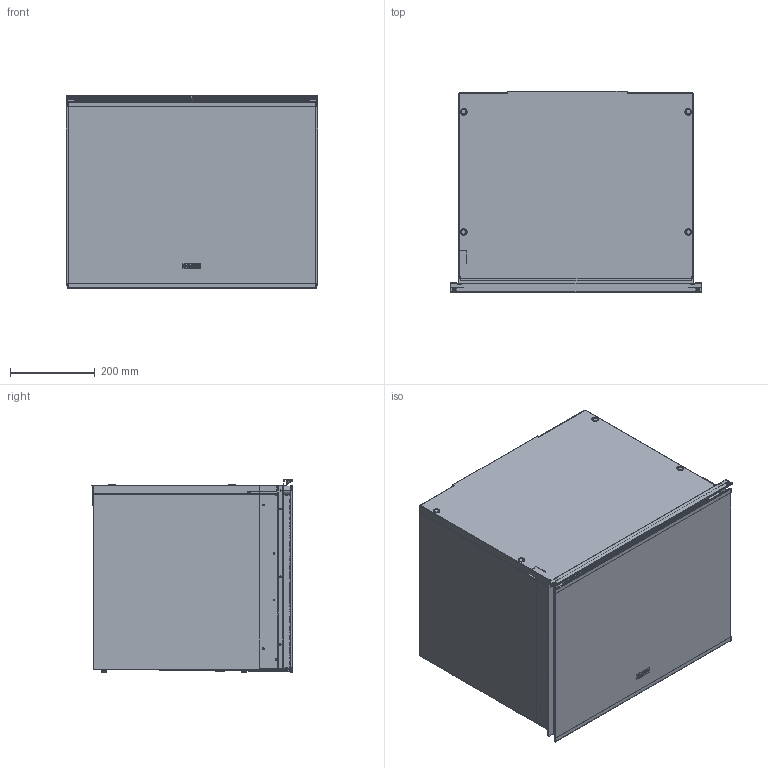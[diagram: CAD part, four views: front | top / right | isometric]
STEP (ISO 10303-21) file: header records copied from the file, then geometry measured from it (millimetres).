
FILE_DESCRIPTION(/* description */ (''),/* implementation_level */ '2;1');
FILE_NAME(/* name */ '3D001_Wine-Coolers_Mythos_FMY-24-WCR',/* time_stamp */ '2024-02-07T15:45:24+01:00',/* author */ (''),/* organization */ (''),/* preprocessor_version */ 'ST-DEVELOPER v19.2',/* originating_system */ 'Rhino 8.3',/* authorisation */ '');
FILE_SCHEMA (('CONFIG_CONTROL_DESIGN'));
Length unit declared in the file: millimetre
Products named in the file (27): Document; P_001025; P_001020; Blocco 01; CERNIERA PORTA CANTINA 5M; P_003065; 019-15 STAFFA FISSAGGIO PUSH; BAULETTO SCHIUMATO CANTINA 5M; Fondo bauletto 45 5M; schiena cantina 45 5M; BAULETTO 45 SUP 5M; P_003079; SOTTOVITE 2885_AA01 3638220; Assieme FLANGIA CANTINA 5M; staffa centrale Whirlpool 5M; 461960279061_ASM^Mwo- Whirlpool integrated handle_FORNO Mwo- Whirlpoo
l integrated handle; 3_6_334_2_0_3_6_334_2_1; staffa laterale cantina 5M; 4479_2; FERMOPORTA CANTINA_1_2_5167; CERNIERA SOTTO NUOVA VERSIONE_PDM03; CERNIERA SOPRA NUOVA VERSIONE con asole_PDM01; 019-15 Assieme PUSH-PUSH; 019-15 PUSH-PUSH; 019-15 PERNO PUSH; BATTUTA PUSH 5M; CONVOGLIATORE CANTINA 45 5M
Bounding box: 595 x 475.5 x 455.7 mm (x, y, z)
Volume: 2961288.1 mm3; surface area: 4128751.8 mm2
Topology: 38 solids, 38 shells, 2250 faces, 5629 edges, 3488 vertices
Faces by surface type: plane 982, cylinder 872, bspline 396
Entity records: 82833 total; most frequent: CARTESIAN_POINT 39326, ORIENTED_EDGE 10278, EDGE_CURVE 5139, DIRECTION 4359, B_SPLINE_CURVE_WITH_KNOTS 3613, VERTEX_POINT 3171, AXIS2_PLACEMENT_3D 3029, EDGE_LOOP 2532
